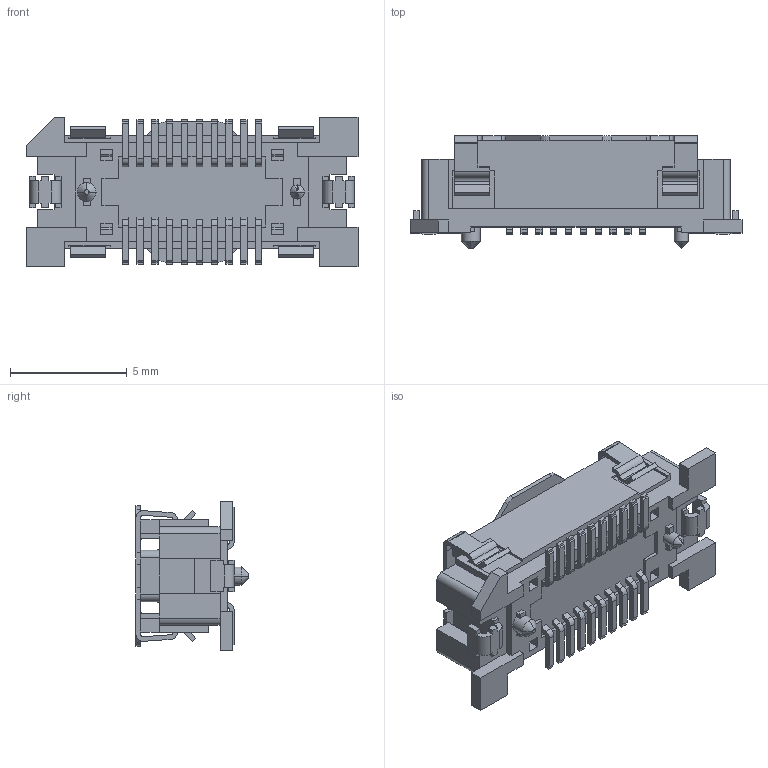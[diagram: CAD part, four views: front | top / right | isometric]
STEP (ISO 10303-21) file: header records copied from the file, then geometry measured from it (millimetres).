
FILE_DESCRIPTION(('STEP AP242'),'1');
FILE_NAME('0528850274.stp','2025-01-21T06:10:10',('TraceParts'),('TraceParts S.A.'),'Spatial InterOp 3D',' ',' ');
FILE_SCHEMA(('AP242_MANAGED_MODEL_BASED_3D_ENGINEERING_MIM_LF {1 0 10303 442 1 1 4}'));
Length unit declared in the file: millimetre
Products named in the file (1): 0528850274_1
Bounding box: 14.22 x 4.8 x 6.4 mm (x, y, z)
Volume: 162.7 mm3; surface area: 584.3 mm2
Topology: 1 solids, 1 shells, 729 faces, 2181 edges, 1571 vertices
Faces by surface type: plane 561, cylinder 160, cone 8
Entity records: 24325 total; most frequent: CARTESIAN_POINT 4291, ORIENTED_EDGE 4166, DIRECTION 3979, EDGE_CURVE 2083, LINE 1837, VECTOR 1837, VERTEX_POINT 1383, AXIS2_PLACEMENT_3D 1071
